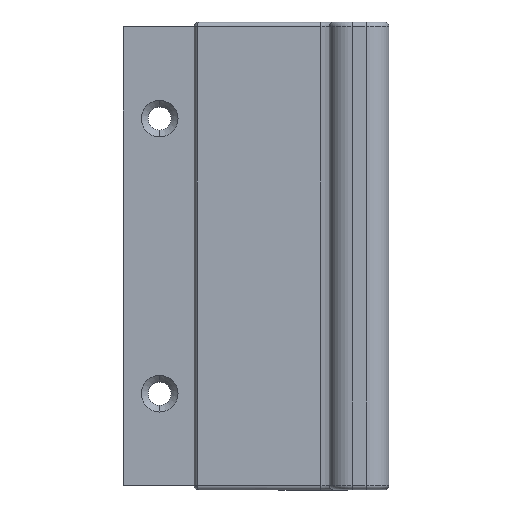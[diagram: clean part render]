
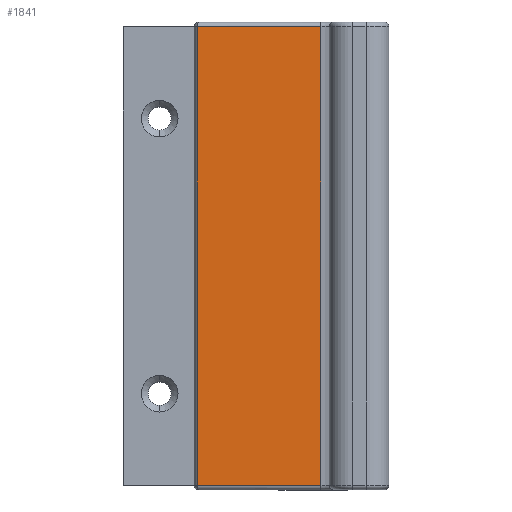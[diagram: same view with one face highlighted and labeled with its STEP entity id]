
A CAD part, top view. The second image highlights one B-rep face of the part: STEP entity #1841.
In plain terms, the highlighted planar face has unit normal (0, 0, 1).
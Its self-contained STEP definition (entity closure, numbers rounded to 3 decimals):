
#21 = CARTESIAN_POINT ( 'NONE',  ( -6.832, -1., 10. ) ) ;
#89 = EDGE_CURVE ( 'NONE', #400, #358, #1242, .T. ) ;
#93 = EDGE_LOOP ( 'NONE', ( #494, #192, #683, #945 ) ) ;
#96 = LINE ( 'NONE', #1114, #418 ) ;
#192 = ORIENTED_EDGE ( 'NONE', *, *, #89, .T. ) ;
#223 = DIRECTION ( 'NONE',  ( 0., 0., -1. ) ) ;
#237 = DIRECTION ( 'NONE',  ( 1., 0., 0. ) ) ;
#249 = EDGE_CURVE ( 'NONE', #1451, #400, #96, .T. ) ;
#252 = VECTOR ( 'NONE', #1107, 1000. ) ;
#358 = VERTEX_POINT ( 'NONE', #1773 ) ;
#400 = VERTEX_POINT ( 'NONE', #1299 ) ;
#418 = VECTOR ( 'NONE', #1786, 1000. ) ;
#494 = ORIENTED_EDGE ( 'NONE', *, *, #249, .T. ) ;
#627 = EDGE_CURVE ( 'NONE', #1668, #1451, #705, .T. ) ;
#683 = ORIENTED_EDGE ( 'NONE', *, *, #1265, .F. ) ;
#705 = LINE ( 'NONE', #2072, #895 ) ;
#895 = VECTOR ( 'NONE', #237, 1000. ) ;
#899 = PLANE ( 'NONE',  #1945 ) ;
#945 = ORIENTED_EDGE ( 'NONE', *, *, #627, .T. ) ;
#1044 = DIRECTION ( 'NONE',  ( -1., 0., 0. ) ) ;
#1107 = DIRECTION ( 'NONE',  ( 0., 1., 0. ) ) ;
#1114 = CARTESIAN_POINT ( 'NONE',  ( -6.832, -102., 10. ) ) ;
#1115 = CARTESIAN_POINT ( 'NONE',  ( -6.832, -101., 10. ) ) ;
#1242 = LINE ( 'NONE', #21, #1628 ) ;
#1265 = EDGE_CURVE ( 'NONE', #1668, #358, #1561, .T. ) ;
#1299 = CARTESIAN_POINT ( 'NONE',  ( -6.832, -1., 10. ) ) ;
#1395 = DIRECTION ( 'NONE',  ( 1., 0., 0. ) ) ;
#1451 = VERTEX_POINT ( 'NONE', #1115 ) ;
#1561 = LINE ( 'NONE', #1598, #252 ) ;
#1598 = CARTESIAN_POINT ( 'NONE',  ( -33.832, -102., 10. ) ) ;
#1628 = VECTOR ( 'NONE', #1044, 1000. ) ;
#1645 = FACE_OUTER_BOUND ( 'NONE', #93, .T. ) ;
#1668 = VERTEX_POINT ( 'NONE', #2147 ) ;
#1773 = CARTESIAN_POINT ( 'NONE',  ( -33.832, -1., 10. ) ) ;
#1786 = DIRECTION ( 'NONE',  ( 0., 1., 0. ) ) ;
#1841 = ADVANCED_FACE ( 'NONE', ( #1645 ), #899, .F. ) ;
#1892 = CARTESIAN_POINT ( 'NONE',  ( -6.832, -102., 10. ) ) ;
#1945 = AXIS2_PLACEMENT_3D ( 'NONE', #1892, #223, #1395 ) ;
#2072 = CARTESIAN_POINT ( 'NONE',  ( -6.832, -101., 10. ) ) ;
#2147 = CARTESIAN_POINT ( 'NONE',  ( -33.832, -101., 10. ) ) ;
